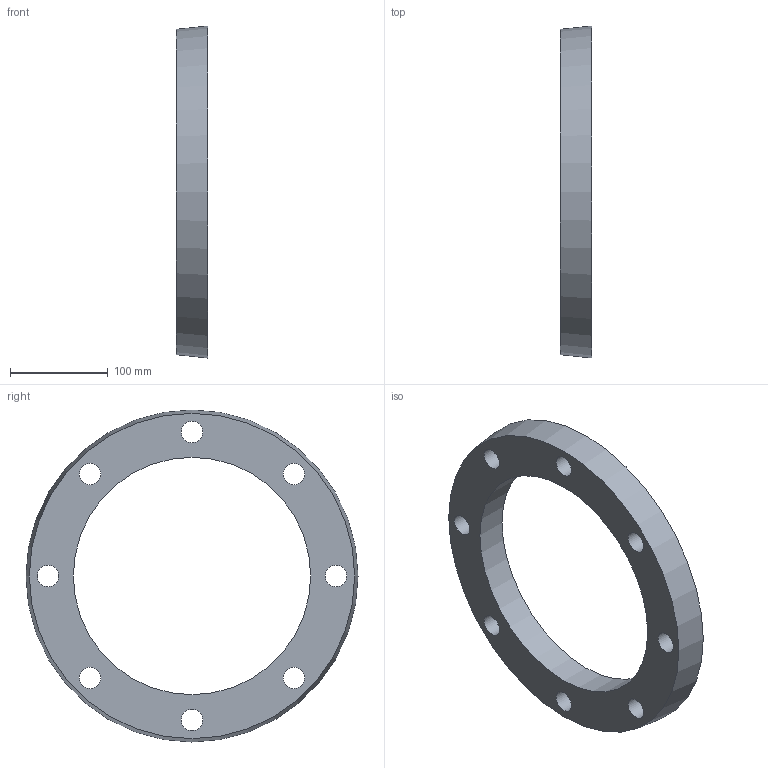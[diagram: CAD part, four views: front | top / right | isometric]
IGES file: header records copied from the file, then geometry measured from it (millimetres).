
Global section: file name: 059000225.ipt; native system: Autodesk Inventor 2015; preprocessor: unknown; author: KIM; date: 20171207.165923; units: millimetre
Bounding box: 32 x 340 x 340 mm (x, y, z)
Volume: 1266248.2 mm3; surface area: 155304.3 mm2
Topology: 1 solids, 1 shells, 12 faces, 32 edges, 22 vertices
Faces by surface type: revolution 9, plane 2, cone 1
